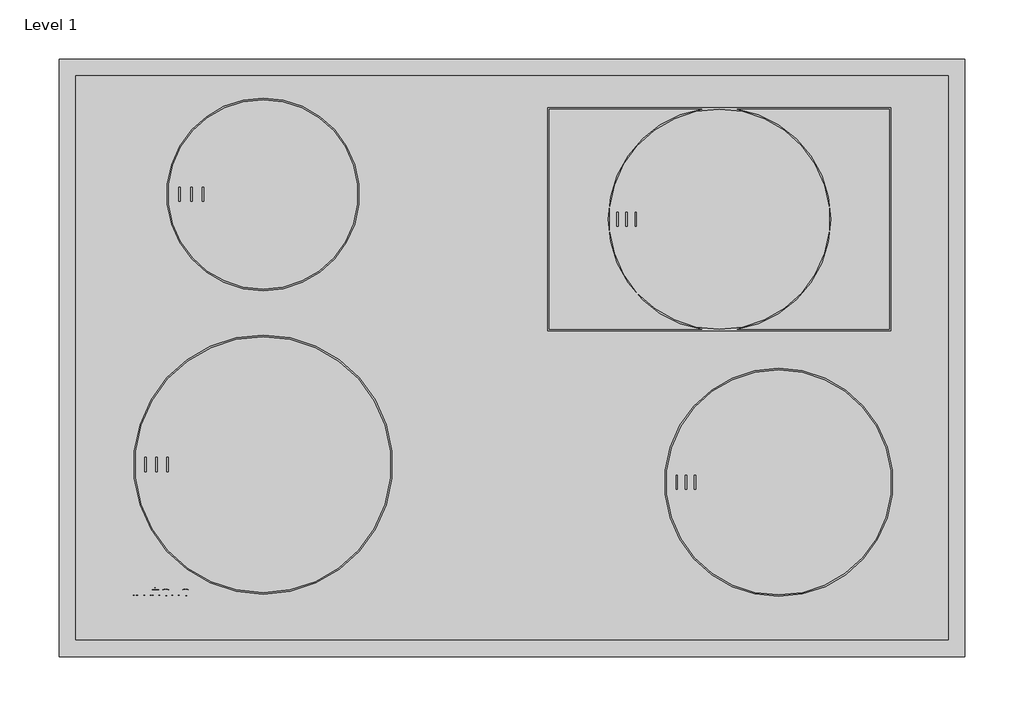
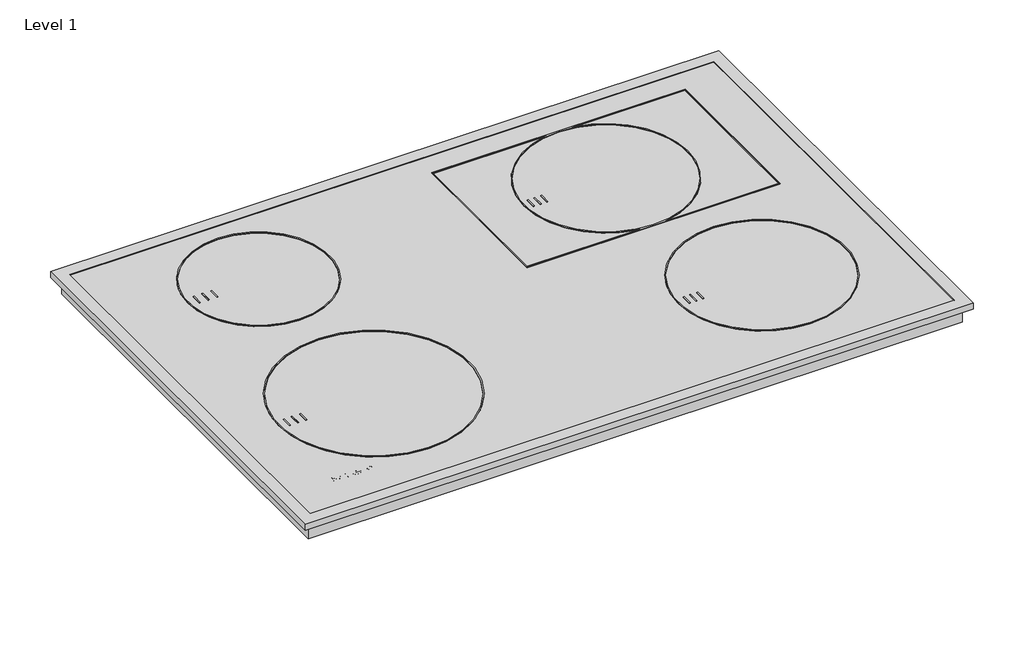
# One storey: 1 proxy.
"""IFC4 building model written with IfcOpenShell, lengths in millimetres."""

from ifc_helpers import new_model, si_unit, origin, place, context, project, spatial, transform, mapped, element, save
from components import specialty_equipment_fa1b22ea

model = new_model("IFC4")

# Units and contexts
model_context = context("Model", 3, world=origin())
ifc_project = project(units=[si_unit("LENGTHUNIT", "METRE", prefix="MILLI")], contexts=[model_context])

# Site, building, storey
site = spatial("IfcSite", under=ifc_project)
building = spatial("IfcBuilding", under=site)
storey = spatial("IfcBuildingStorey", under=building, Name="Level 1", Elevation=0.0)

# Proxy
placement = place(None, origin())
specialty_equipment_shape = specialty_equipment_fa1b22ea(model_context)
element("IfcBuildingElementProxy", 1, Name="11022850_D_KM7210FR : 26721010_D_11022850_KM7210FR", ObjectType="11022850_D_KM7210FR : 26721010_D_11022850_KM7210FR", at=placement, inside=storey, context=model_context, shape_type="MappedRepresentation", body=[
    mapped(specialty_equipment_shape, transform((0.0, 0.0, 0.0), x_axis=(1.0, 0.0, 0.0), y_axis=(0.0, 1.0, 0.0), z_axis=(0.0, 0.0, 1.0))),
])

save(model, "model.ifc")
